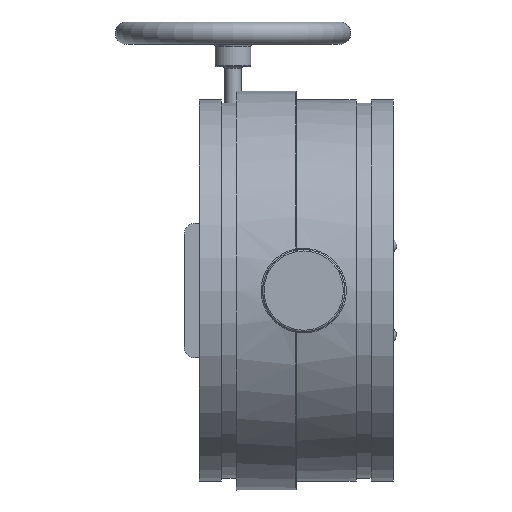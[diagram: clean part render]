
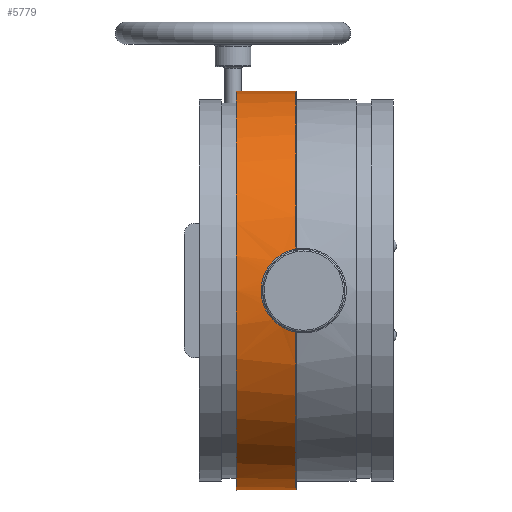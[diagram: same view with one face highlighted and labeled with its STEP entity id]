
A CAD part, front view. The second image highlights one B-rep face of the part: STEP entity #5779.
In plain terms, the highlighted cylindrical face has radius 169.291 mm (diameter 338.582 mm), a full revolution.
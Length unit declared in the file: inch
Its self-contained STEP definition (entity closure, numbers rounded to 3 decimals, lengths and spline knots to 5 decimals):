
#80=B_SPLINE_CURVE_WITH_KNOTS('',3,(#9611,#9612,#9613,#9614,#9615,#9616,
#9617),.UNSPECIFIED.,.F.,.F.,(4,1,1,1,4),(-10.0747,-8.63546,
-7.19622,-5.75697,-5.03731),.UNSPECIFIED.);
#81=B_SPLINE_CURVE_WITH_KNOTS('',3,(#9618,#9619,#9620,#9621,#9622,#9623,
#9624),.UNSPECIFIED.,.F.,.F.,(4,1,1,1,4),(-5.03731,-4.31773,
-2.87849,-1.43924,0.),.UNSPECIFIED.);
#87=B_SPLINE_CURVE_WITH_KNOTS('',3,(#9753,#9754,#9755,#9756,#9757),
 .UNSPECIFIED.,.F.,.F.,(4,1,4),(0.,0.10334,0.24112),
 .UNSPECIFIED.);
#88=B_SPLINE_CURVE_WITH_KNOTS('',3,(#9761,#9762,#9763,#9764,#9765),
 .UNSPECIFIED.,.F.,.F.,(4,1,4),(0.,0.10334,0.24112),
 .UNSPECIFIED.);
#385=FACE_OUTER_BOUND('',#748,.T.);
#748=EDGE_LOOP('',(#3798,#3799,#3800,#3801,#3802,#3803,#3804,#3805,#3806,
#3807,#3808,#3809,#3810));
#1158=LINE('',#9751,#1469);
#1159=LINE('',#9767,#1470);
#1160=LINE('',#9770,#1471);
#1469=VECTOR('',#7288,0.3937);
#1470=VECTOR('',#7291,0.3937);
#1471=VECTOR('',#7294,6.665);
#1786=CIRCLE('',#6289,6.665);
#1787=CIRCLE('',#6290,6.665);
#1788=CIRCLE('',#6291,6.665);
#1789=CIRCLE('',#6292,6.665);
#1790=CIRCLE('',#6293,6.665);
#2284=VERTEX_POINT('',#9543);
#2286=VERTEX_POINT('',#9608);
#2287=VERTEX_POINT('',#9610);
#2307=VERTEX_POINT('',#9748);
#2308=VERTEX_POINT('',#9750);
#2309=VERTEX_POINT('',#9752);
#2310=VERTEX_POINT('',#9758);
#2311=VERTEX_POINT('',#9760);
#2312=VERTEX_POINT('',#9766);
#2313=VERTEX_POINT('',#9769);
#2314=VERTEX_POINT('',#9771);
#2832=EDGE_CURVE('',#2286,#2287,#80,.T.);
#2833=EDGE_CURVE('',#2287,#2284,#81,.T.);
#2865=EDGE_CURVE('',#2307,#2286,#1786,.T.);
#2866=EDGE_CURVE('',#2308,#2307,#1158,.T.);
#2867=EDGE_CURVE('',#2309,#2308,#87,.T.);
#2868=EDGE_CURVE('',#2310,#2309,#1787,.T.);
#2869=EDGE_CURVE('',#2311,#2310,#88,.T.);
#2870=EDGE_CURVE('',#2312,#2311,#1159,.T.);
#2871=EDGE_CURVE('',#2284,#2312,#1788,.T.);
#2872=EDGE_CURVE('',#2287,#2313,#1160,.T.);
#2873=EDGE_CURVE('',#2313,#2314,#1789,.T.);
#2874=EDGE_CURVE('',#2314,#2313,#1790,.T.);
#3798=ORIENTED_EDGE('',*,*,#2832,.F.);
#3799=ORIENTED_EDGE('',*,*,#2865,.F.);
#3800=ORIENTED_EDGE('',*,*,#2866,.F.);
#3801=ORIENTED_EDGE('',*,*,#2867,.F.);
#3802=ORIENTED_EDGE('',*,*,#2868,.F.);
#3803=ORIENTED_EDGE('',*,*,#2869,.F.);
#3804=ORIENTED_EDGE('',*,*,#2870,.F.);
#3805=ORIENTED_EDGE('',*,*,#2871,.F.);
#3806=ORIENTED_EDGE('',*,*,#2833,.F.);
#3807=ORIENTED_EDGE('',*,*,#2872,.T.);
#3808=ORIENTED_EDGE('',*,*,#2873,.T.);
#3809=ORIENTED_EDGE('',*,*,#2874,.T.);
#3810=ORIENTED_EDGE('',*,*,#2872,.F.);
#5252=CYLINDRICAL_SURFACE('',#6288,6.665);
#5779=ADVANCED_FACE('',(#385),#5252,.T.);
#6288=AXIS2_PLACEMENT_3D('',#9747,#7284,#7285);
#6289=AXIS2_PLACEMENT_3D('',#9749,#7286,#7287);
#6290=AXIS2_PLACEMENT_3D('',#9759,#7289,#7290);
#6291=AXIS2_PLACEMENT_3D('',#9768,#7292,#7293);
#6292=AXIS2_PLACEMENT_3D('',#9772,#7295,#7296);
#6293=AXIS2_PLACEMENT_3D('',#9773,#7297,#7298);
#7284=DIRECTION('center_axis',(0.,0.,-1.));
#7285=DIRECTION('ref_axis',(0.,1.,0.));
#7286=DIRECTION('center_axis',(0.,0.,-1.));
#7287=DIRECTION('ref_axis',(0.,-1.,0.));
#7288=DIRECTION('',(0.,0.,-1.));
#7289=DIRECTION('center_axis',(0.,0.,-1.));
#7290=DIRECTION('ref_axis',(0.,1.,0.));
#7291=DIRECTION('',(0.,0.,1.));
#7292=DIRECTION('center_axis',(0.,0.,-1.));
#7293=DIRECTION('ref_axis',(0.,-1.,0.));
#7294=DIRECTION('',(0.,0.,1.));
#7295=DIRECTION('center_axis',(0.,0.,-1.));
#7296=DIRECTION('ref_axis',(1.,0.,0.));
#7297=DIRECTION('center_axis',(0.,0.,-1.));
#7298=DIRECTION('ref_axis',(1.,0.,0.));
#9543=CARTESIAN_POINT('',(-1.39065,-6.51831,0.26));
#9608=CARTESIAN_POINT('',(1.39065,-6.51831,0.26));
#9610=CARTESIAN_POINT('',(0.,-6.665,1.425));
#9611=CARTESIAN_POINT('Ctrl Pts',(1.39065,-6.51831,0.26));
#9612=CARTESIAN_POINT('Ctrl Pts',(1.35647,-6.5256,0.44557));
#9613=CARTESIAN_POINT('Ctrl Pts',(1.21413,-6.55593,0.80193));
#9614=CARTESIAN_POINT('Ctrl Pts',(0.81437,-6.62077,1.21077));
#9615=CARTESIAN_POINT('Ctrl Pts',(0.37507,-6.65923,1.39705));
#9616=CARTESIAN_POINT('Ctrl Pts',(0.09378,-6.66496,
1.42494));
#9617=CARTESIAN_POINT('Ctrl Pts',(0.00001,-6.66495,
1.42493));
#9618=CARTESIAN_POINT('Ctrl Pts',(0.00001,-6.66495,
1.42493));
#9619=CARTESIAN_POINT('Ctrl Pts',(-0.09374,-6.66494,
1.42492));
#9620=CARTESIAN_POINT('Ctrl Pts',(-0.37503,-6.65916,
1.39696));
#9621=CARTESIAN_POINT('Ctrl Pts',(-0.81441,-6.62081,
1.21087));
#9622=CARTESIAN_POINT('Ctrl Pts',(-1.21409,-6.55592,0.80189));
#9623=CARTESIAN_POINT('Ctrl Pts',(-1.35647,-6.5256,0.44557));
#9624=CARTESIAN_POINT('Ctrl Pts',(-1.39065,-6.51831,0.26));
#9747=CARTESIAN_POINT('Origin',(0.,0.,1.25));
#9748=CARTESIAN_POINT('',(1.15826,6.56359,0.26));
#9749=CARTESIAN_POINT('Origin',(0.,0.,0.26));
#9750=CARTESIAN_POINT('',(1.15826,6.56359,1.1));
#9751=CARTESIAN_POINT('',(1.15826,6.56359,1.25));
#9752=CARTESIAN_POINT('',(1.09835,6.57388,1.16));
#9753=CARTESIAN_POINT('Ctrl Pts',(1.09835,6.57388,1.16));
#9754=CARTESIAN_POINT('Ctrl Pts',(1.11171,6.57164,1.16));
#9755=CARTESIAN_POINT('Ctrl Pts',(1.14294,6.56631,1.14924));
#9756=CARTESIAN_POINT('Ctrl Pts',(1.15826,6.56359,1.11808));
#9757=CARTESIAN_POINT('Ctrl Pts',(1.15826,6.56359,1.1));
#9758=CARTESIAN_POINT('',(-1.09835,6.57388,1.16));
#9759=CARTESIAN_POINT('Origin',(0.,0.,1.16));
#9760=CARTESIAN_POINT('',(-1.15826,6.56359,1.1));
#9761=CARTESIAN_POINT('Ctrl Pts',(-1.15826,6.56359,1.1));
#9762=CARTESIAN_POINT('Ctrl Pts',(-1.15826,6.56359,1.11356));
#9763=CARTESIAN_POINT('Ctrl Pts',(-1.14707,6.56558,1.14518));
#9764=CARTESIAN_POINT('Ctrl Pts',(-1.11616,6.5709,1.16));
#9765=CARTESIAN_POINT('Ctrl Pts',(-1.09835,6.57388,1.16));
#9766=CARTESIAN_POINT('',(-1.15826,6.56359,0.26));
#9767=CARTESIAN_POINT('',(-1.15826,6.56359,1.25));
#9768=CARTESIAN_POINT('Origin',(0.,0.,0.26));
#9769=CARTESIAN_POINT('',(0.,-6.665,2.25));
#9770=CARTESIAN_POINT('',(0.,-6.665,1.25));
#9771=CARTESIAN_POINT('',(0.,6.665,2.25));
#9772=CARTESIAN_POINT('Origin',(0.,0.,2.25));
#9773=CARTESIAN_POINT('Origin',(0.,0.,2.25));
